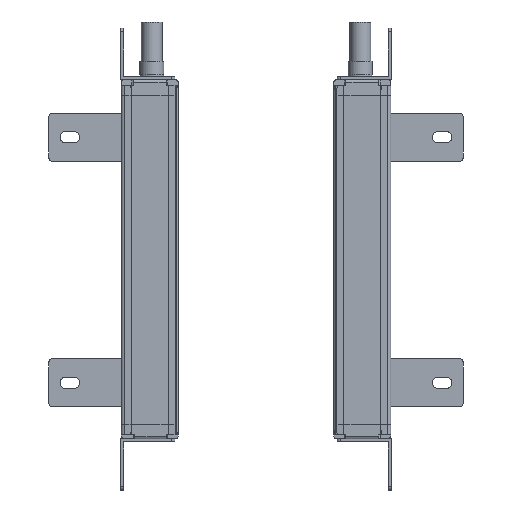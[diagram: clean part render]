
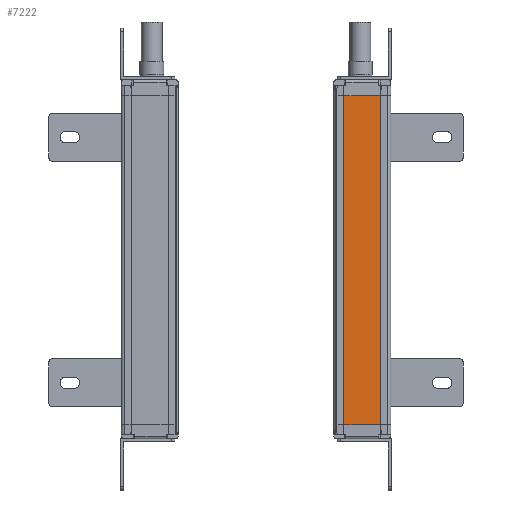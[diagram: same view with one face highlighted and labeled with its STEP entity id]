
A CAD part, left-side view. The second image highlights one B-rep face of the part: STEP entity #7222.
In plain terms, the highlighted planar face has unit normal (-1, 0, 0).
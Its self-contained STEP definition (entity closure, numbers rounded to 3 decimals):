
#1206=FACE_OUTER_BOUND('',#9326,.T.);
#2758=LINE('',#35395,#4896);
#2836=LINE('',#35688,#4974);
#2837=LINE('',#35690,#4975);
#2838=LINE('',#35692,#4976);
#4896=VECTOR('',#28575,1.);
#4974=VECTOR('',#28791,1.);
#4975=VECTOR('',#28794,1.);
#4976=VECTOR('',#28795,1.);
#6334=PLANE('',#24253);
#7222=ADVANCED_FACE('',(#1206),#6334,.T.);
#9326=EDGE_LOOP('',(#13305,#13306,#13307,#13308));
#13305=ORIENTED_EDGE('',*,*,#20640,.F.);
#13306=ORIENTED_EDGE('',*,*,#20641,.T.);
#13307=ORIENTED_EDGE('',*,*,#20642,.T.);
#13308=ORIENTED_EDGE('',*,*,#20494,.F.);
#17757=VERTEX_POINT('',#35396);
#17758=VERTEX_POINT('',#35397);
#17902=VERTEX_POINT('',#35687);
#17903=VERTEX_POINT('',#35691);
#20494=EDGE_CURVE('',#17757,#17758,#2758,.T.);
#20640=EDGE_CURVE('',#17902,#17757,#2836,.T.);
#20641=EDGE_CURVE('',#17902,#17903,#2837,.T.);
#20642=EDGE_CURVE('',#17903,#17758,#2838,.T.);
#24253=AXIS2_PLACEMENT_3D('',#35693,#28796,#28797);
#28575=DIRECTION('',(0.,-1.,0.));
#28791=DIRECTION('',(0.,0.,1.));
#28794=DIRECTION('',(0.,-1.,0.));
#28795=DIRECTION('',(0.,0.,1.));
#28796=DIRECTION('',(-1.,0.,0.));
#28797=DIRECTION('',(0.,-1.,0.));
#35395=CARTESIAN_POINT('',(233.846,-51.29,31.645));
#35396=CARTESIAN_POINT('',(233.846,-28.29,31.645));
#35397=CARTESIAN_POINT('',(233.846,-51.29,31.645));
#35687=CARTESIAN_POINT('',(233.846,-28.29,-173.355));
#35688=CARTESIAN_POINT('',(233.846,-28.29,-155.355));
#35690=CARTESIAN_POINT('',(233.846,-51.29,-173.355));
#35691=CARTESIAN_POINT('',(233.846,-51.29,-173.355));
#35692=CARTESIAN_POINT('',(233.846,-51.29,-155.355));
#35693=CARTESIAN_POINT('',(233.846,-51.29,-50.355));
